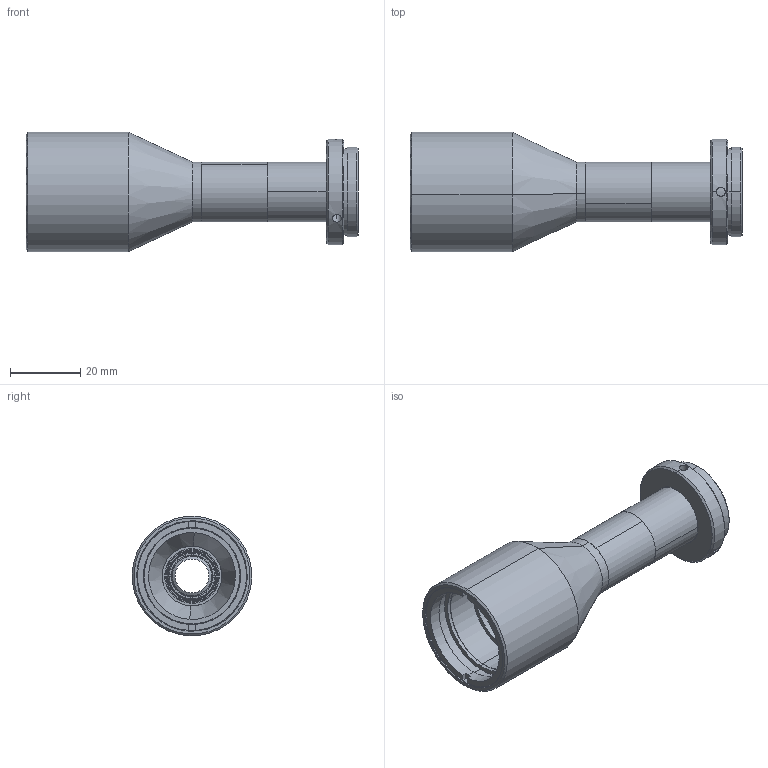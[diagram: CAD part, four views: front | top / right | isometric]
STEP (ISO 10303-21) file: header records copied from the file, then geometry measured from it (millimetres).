
FILE_DESCRIPTION (( 'STEP AP203' ), '1' );
FILE_NAME ('TC5M-05-65.STEP', '2017-06-28T05:06:06', ( 'COM' ), ( '' ), 'SwSTEP 2.0', 'SolidWorks 2012', '' );
FILE_SCHEMA (( 'CONFIG_CONTROL_DESIGN' ));
Length unit declared in the file: millimetre
Products named in the file (1): TC5M-05-65
Bounding box: 94.38 x 33.96 x 33.96 mm (x, y, z)
Surface area: 14190.7 mm2 (no closed solid volume)
Topology: 0 solids, 11 shells, 95 faces, 245 edges, 160 vertices
Faces by surface type: cylinder 44, plane 27, cone 24
Entity records: 3202 total; most frequent: CARTESIAN_POINT 771, DIRECTION 537, ORIENTED_EDGE 430, EDGE_CURVE 245, AXIS2_PLACEMENT_3D 220, VERTEX_POINT 160, CIRCLE 124, EDGE_LOOP 108
